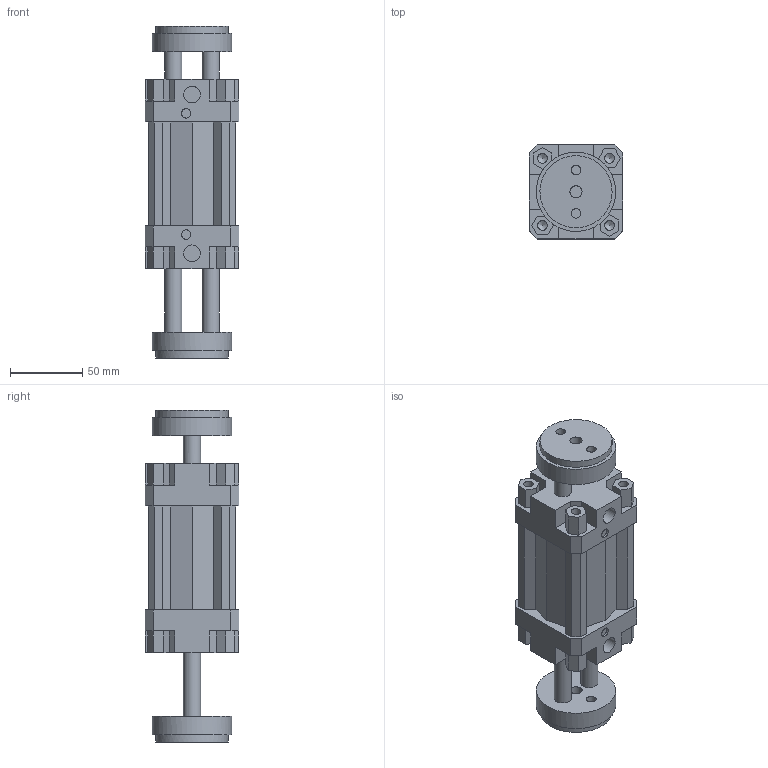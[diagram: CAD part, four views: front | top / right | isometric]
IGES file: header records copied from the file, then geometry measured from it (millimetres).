
Global section: file name: 132#_050_0025_06; native system: Autodesk Inventor 2014; preprocessor: unknown; author: A. Manieri; date: 20161006.155645; units: millimetre
Bounding box: 65 x 65 x 230 mm (x, y, z)
Volume: 475740.2 mm3; surface area: 111193.4 mm2
Topology: 2 solids, 2 shells, 190 faces, 518 edges, 354 vertices
Faces by surface type: bspline 190
